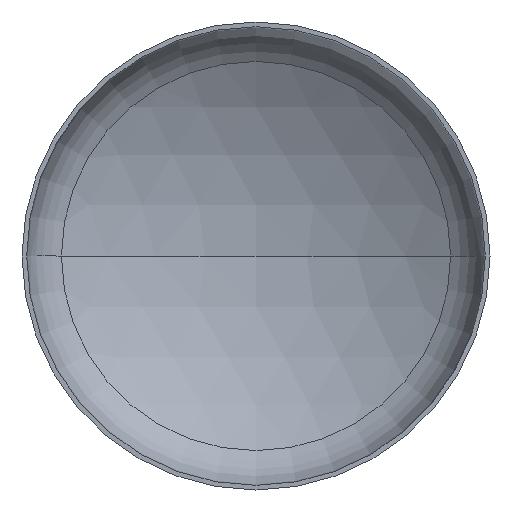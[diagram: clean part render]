
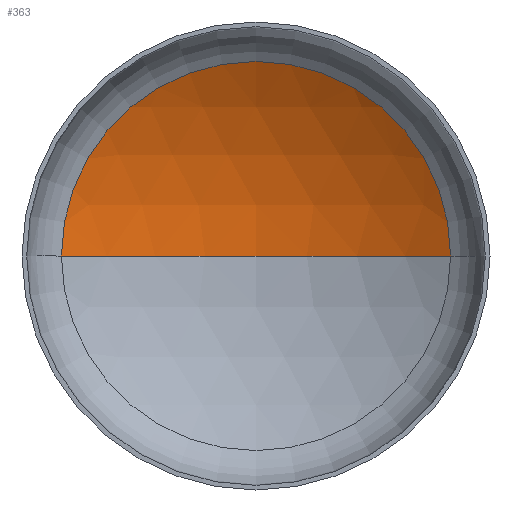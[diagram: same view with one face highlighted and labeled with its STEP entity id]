
A CAD part, front view. The second image highlights one B-rep face of the part: STEP entity #363.
In plain terms, the highlighted spherical face has radius 1760 mm.
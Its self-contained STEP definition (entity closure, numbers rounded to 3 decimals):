
#7 = AXIS2_PLACEMENT_3D ( 'NONE', #247, #360, #77 ) ;
#12 = AXIS2_PLACEMENT_3D ( 'NONE', #231, #234, #391 ) ;
#28 = AXIS2_PLACEMENT_3D ( 'NONE', #253, #373, #164 ) ;
#37 = EDGE_LOOP ( 'NONE', ( #137, #129, #62 ) ) ;
#47 = VERTEX_POINT ( 'NONE', #236 ) ;
#56 = AXIS2_PLACEMENT_3D ( 'NONE', #310, #123, #175 ) ;
#62 = ORIENTED_EDGE ( 'NONE', *, *, #124, .T. ) ;
#67 = VERTEX_POINT ( 'NONE', #242 ) ;
#77 = DIRECTION ( 'NONE',  ( -1., 0., 0. ) ) ;
#83 = VERTEX_POINT ( 'NONE', #335 ) ;
#123 = DIRECTION ( 'NONE',  ( 0., -1., 0. ) ) ;
#124 = EDGE_CURVE ( 'NONE', #47, #67, #157, .T. ) ;
#129 = ORIENTED_EDGE ( 'NONE', *, *, #364, .T. ) ;
#137 = ORIENTED_EDGE ( 'NONE', *, *, #342, .F. ) ;
#157 = CIRCLE ( 'NONE', #56, 914.704 ) ;
#164 = DIRECTION ( 'NONE',  ( 1., 0., 0. ) ) ;
#175 = DIRECTION ( 'NONE',  ( 1., 0., 0. ) ) ;
#179 = CIRCLE ( 'NONE', #12, 1760. ) ;
#231 = CARTESIAN_POINT ( 'NONE',  ( 0., -1143.16, 0. ) ) ;
#234 = DIRECTION ( 'NONE',  ( 0., 0., -1. ) ) ;
#236 = CARTESIAN_POINT ( 'NONE',  ( 914.704, 360.475, 0. ) ) ;
#242 = CARTESIAN_POINT ( 'NONE',  ( -914.704, 360.475, 0. ) ) ;
#247 = CARTESIAN_POINT ( 'NONE',  ( 0., -1143.16, 0. ) ) ;
#250 = FACE_OUTER_BOUND ( 'NONE', #37, .T. ) ;
#253 = CARTESIAN_POINT ( 'NONE',  ( 0., -1143.16, 0. ) ) ;
#297 = SPHERICAL_SURFACE ( 'NONE', #7, 1760. ) ;
#304 = CIRCLE ( 'NONE', #28, 1760. ) ;
#310 = CARTESIAN_POINT ( 'NONE',  ( 0., 360.475, 0. ) ) ;
#335 = CARTESIAN_POINT ( 'NONE',  ( 0., 616.84, 0. ) ) ;
#342 = EDGE_CURVE ( 'NONE', #83, #67, #304, .T. ) ;
#360 = DIRECTION ( 'NONE',  ( 0., 0., -1. ) ) ;
#363 = ADVANCED_FACE ( 'NONE', ( #250 ), #297, .F. ) ;
#364 = EDGE_CURVE ( 'NONE', #83, #47, #179, .T. ) ;
#373 = DIRECTION ( 'NONE',  ( 0., 0., 1. ) ) ;
#391 = DIRECTION ( 'NONE',  ( -1., 0., 0. ) ) ;
